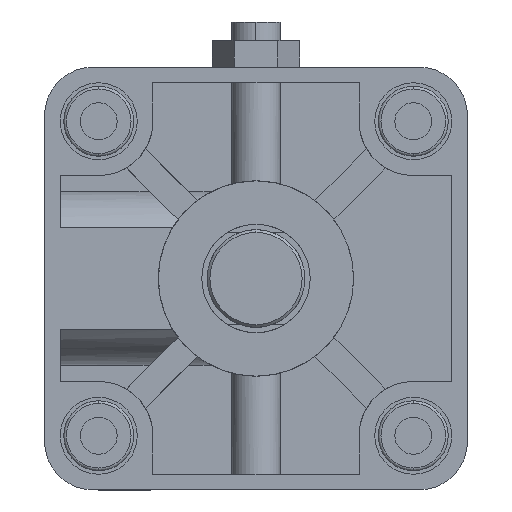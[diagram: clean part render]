
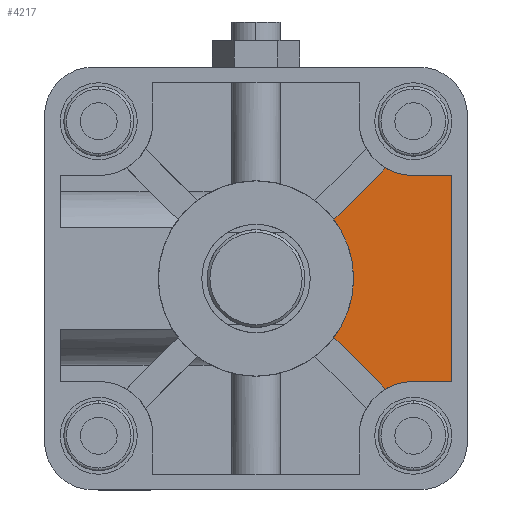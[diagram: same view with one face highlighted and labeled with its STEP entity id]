
A CAD part, left-side view. The second image highlights one B-rep face of the part: STEP entity #4217.
In plain terms, the highlighted planar face has unit normal (-1, 0, 0) as drawn and (1, 0, 0) by its records, which use the part's own axes.
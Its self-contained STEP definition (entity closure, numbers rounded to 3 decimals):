
#36 = CARTESIAN_POINT ( 'NONE',  ( -6., -23.921, 20.386 ) ) ;
#85 = DIRECTION ( 'NONE',  ( 0., -1., 0. ) ) ;
#237 = VECTOR ( 'NONE', #8323, 1000. ) ;
#258 = DIRECTION ( 'NONE',  ( -1., 0., 0. ) ) ;
#550 = CARTESIAN_POINT ( 'NONE',  ( -6., 0., 0. ) ) ;
#663 = DIRECTION ( 'NONE',  ( 1., 0., 0. ) ) ;
#912 = CIRCLE ( 'NONE', #2603, 10. ) ;
#925 = VERTEX_POINT ( 'NONE', #36 ) ;
#1101 = AXIS2_PLACEMENT_3D ( 'NONE', #550, #258, #1767 ) ;
#1290 = CARTESIAN_POINT ( 'NONE',  ( -6., -14.372, -10.837 ) ) ;
#1414 = CARTESIAN_POINT ( 'NONE',  ( -6., -29., 19. ) ) ;
#1448 = DIRECTION ( 'NONE',  ( 1., 0., 0. ) ) ;
#1512 = CARTESIAN_POINT ( 'NONE',  ( -6., -1.768, -1.768 ) ) ;
#1514 = CARTESIAN_POINT ( 'NONE',  ( -6., -29., -19. ) ) ;
#1674 = VERTEX_POINT ( 'NONE', #6719 ) ;
#1767 = DIRECTION ( 'NONE',  ( 0., 0., -1. ) ) ;
#2538 = LINE ( 'NONE', #4989, #7313 ) ;
#2591 = LINE ( 'NONE', #5970, #237 ) ;
#2603 = AXIS2_PLACEMENT_3D ( 'NONE', #4940, #4167, #6480 ) ;
#2932 = ORIENTED_EDGE ( 'NONE', *, *, #8215, .F. ) ;
#3137 = FACE_OUTER_BOUND ( 'NONE', #6423, .T. ) ;
#3611 = CARTESIAN_POINT ( 'NONE',  ( -6., -23.921, -20.386 ) ) ;
#4029 = DIRECTION ( 'NONE',  ( 0., 0., -1. ) ) ;
#4167 = DIRECTION ( 'NONE',  ( -1., 0., 0. ) ) ;
#4197 = LINE ( 'NONE', #7548, #8151 ) ;
#4217 = ADVANCED_FACE ( 'NONE', ( #3137 ), #8275, .T. ) ;
#4355 = VERTEX_POINT ( 'NONE', #8890 ) ;
#4404 = VERTEX_POINT ( 'NONE', #8442 ) ;
#4576 = VERTEX_POINT ( 'NONE', #1414 ) ;
#4666 = DIRECTION ( 'NONE',  ( 0., -1., 0. ) ) ;
#4708 = VERTEX_POINT ( 'NONE', #1290 ) ;
#4795 = EDGE_CURVE ( 'NONE', #4404, #4355, #6994, .T. ) ;
#4826 = VERTEX_POINT ( 'NONE', #1514 ) ;
#4940 = CARTESIAN_POINT ( 'NONE',  ( -6., -29., -29. ) ) ;
#4989 = CARTESIAN_POINT ( 'NONE',  ( -6., 0., 19. ) ) ;
#5120 = DIRECTION ( 'NONE',  ( 0., 0., -1. ) ) ;
#5139 = EDGE_CURVE ( 'NONE', #4826, #7824, #912, .T. ) ;
#5189 = CIRCLE ( 'NONE', #1101, 18. ) ;
#5209 = VECTOR ( 'NONE', #6849, 1000. ) ;
#5454 = CARTESIAN_POINT ( 'NONE',  ( -6., 0., 0. ) ) ;
#5569 = EDGE_CURVE ( 'NONE', #4826, #4355, #4197, .T. ) ;
#5574 = AXIS2_PLACEMENT_3D ( 'NONE', #5454, #1448, #4029 ) ;
#5970 = CARTESIAN_POINT ( 'NONE',  ( -6., -1.768, 1.768 ) ) ;
#6286 = ORIENTED_EDGE ( 'NONE', *, *, #8354, .F. ) ;
#6357 = CARTESIAN_POINT ( 'NONE',  ( -6., -29., 29. ) ) ;
#6423 = EDGE_LOOP ( 'NONE', ( #6286, #8010, #6748, #8714, #6814, #8484, #2932, #6688 ) ) ;
#6480 = DIRECTION ( 'NONE',  ( 0., 0., -1. ) ) ;
#6575 = DIRECTION ( 'NONE',  ( 0., 0., -1. ) ) ;
#6654 = EDGE_CURVE ( 'NONE', #4708, #1674, #5189, .T. ) ;
#6667 = CIRCLE ( 'NONE', #7765, 10. ) ;
#6688 = ORIENTED_EDGE ( 'NONE', *, *, #6654, .T. ) ;
#6719 = CARTESIAN_POINT ( 'NONE',  ( -6., -14.372, 10.837 ) ) ;
#6748 = ORIENTED_EDGE ( 'NONE', *, *, #9093, .T. ) ;
#6814 = ORIENTED_EDGE ( 'NONE', *, *, #5569, .F. ) ;
#6849 = DIRECTION ( 'NONE',  ( 0., 0.707, -0.707 ) ) ;
#6851 = CARTESIAN_POINT ( 'NONE',  ( -6., -36.1, 0. ) ) ;
#6994 = LINE ( 'NONE', #6851, #8489 ) ;
#7313 = VECTOR ( 'NONE', #4666, 1000. ) ;
#7548 = CARTESIAN_POINT ( 'NONE',  ( -6., 0., -19. ) ) ;
#7736 = LINE ( 'NONE', #1512, #5209 ) ;
#7765 = AXIS2_PLACEMENT_3D ( 'NONE', #6357, #663, #5120 ) ;
#7824 = VERTEX_POINT ( 'NONE', #3611 ) ;
#8010 = ORIENTED_EDGE ( 'NONE', *, *, #8648, .F. ) ;
#8151 = VECTOR ( 'NONE', #85, 1000. ) ;
#8215 = EDGE_CURVE ( 'NONE', #4708, #7824, #2591, .T. ) ;
#8275 = PLANE ( 'NONE',  #5574 ) ;
#8323 = DIRECTION ( 'NONE',  ( 0., -0.707, -0.707 ) ) ;
#8354 = EDGE_CURVE ( 'NONE', #925, #1674, #7736, .T. ) ;
#8442 = CARTESIAN_POINT ( 'NONE',  ( -6., -36.1, 19. ) ) ;
#8484 = ORIENTED_EDGE ( 'NONE', *, *, #5139, .T. ) ;
#8489 = VECTOR ( 'NONE', #6575, 1000. ) ;
#8648 = EDGE_CURVE ( 'NONE', #4576, #925, #6667, .T. ) ;
#8714 = ORIENTED_EDGE ( 'NONE', *, *, #4795, .T. ) ;
#8890 = CARTESIAN_POINT ( 'NONE',  ( -6., -36.1, -19. ) ) ;
#9093 = EDGE_CURVE ( 'NONE', #4576, #4404, #2538, .T. ) ;
